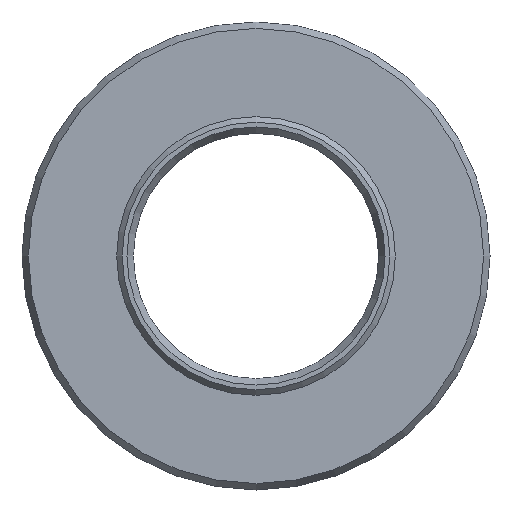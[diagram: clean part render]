
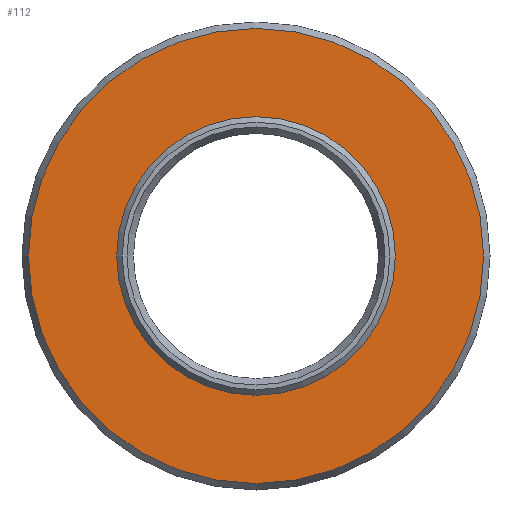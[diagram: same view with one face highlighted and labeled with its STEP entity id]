
A CAD part, left-side view. The second image highlights one B-rep face of the part: STEP entity #112.
In plain terms, the highlighted planar face has unit normal (-1, 0, 0).
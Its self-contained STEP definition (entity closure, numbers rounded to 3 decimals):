
#107=PLANE('',#279);
#112=ADVANCED_FACE('',(#131,#132),#107,.T.);
#131=FACE_BOUND('',#163,.T.);
#132=FACE_BOUND('',#164,.T.);
#163=EDGE_LOOP('',(#195));
#164=EDGE_LOOP('',(#196));
#195=ORIENTED_EDGE('',*,*,#243,.T.);
#196=ORIENTED_EDGE('',*,*,#244,.T.);
#227=VERTEX_POINT('',#379);
#228=VERTEX_POINT('',#381);
#243=EDGE_CURVE('',#227,#227,#259,.T.);
#244=EDGE_CURVE('',#228,#228,#260,.T.);
#259=CIRCLE('',#277,20.423);
#260=CIRCLE('',#278,12.5);
#277=AXIS2_PLACEMENT_3D('',#378,#314,#315);
#278=AXIS2_PLACEMENT_3D('',#380,#316,#317);
#279=AXIS2_PLACEMENT_3D('',#382,#318,#319);
#314=DIRECTION('',(-1.,0.,0.));
#315=DIRECTION('',(0.,0.,1.));
#316=DIRECTION('',(1.,0.,0.));
#317=DIRECTION('',(0.,0.,-1.));
#318=DIRECTION('',(-1.,0.,0.));
#319=DIRECTION('',(0.,0.,1.));
#378=CARTESIAN_POINT('',(0.,0.,0.));
#379=CARTESIAN_POINT('',(0.,0.,20.423));
#380=CARTESIAN_POINT('',(0.,0.,0.));
#381=CARTESIAN_POINT('',(0.,0.,-12.5));
#382=CARTESIAN_POINT('',(0.,21.,0.));
